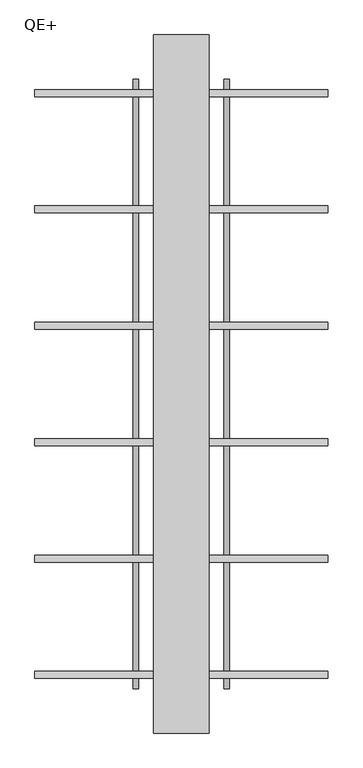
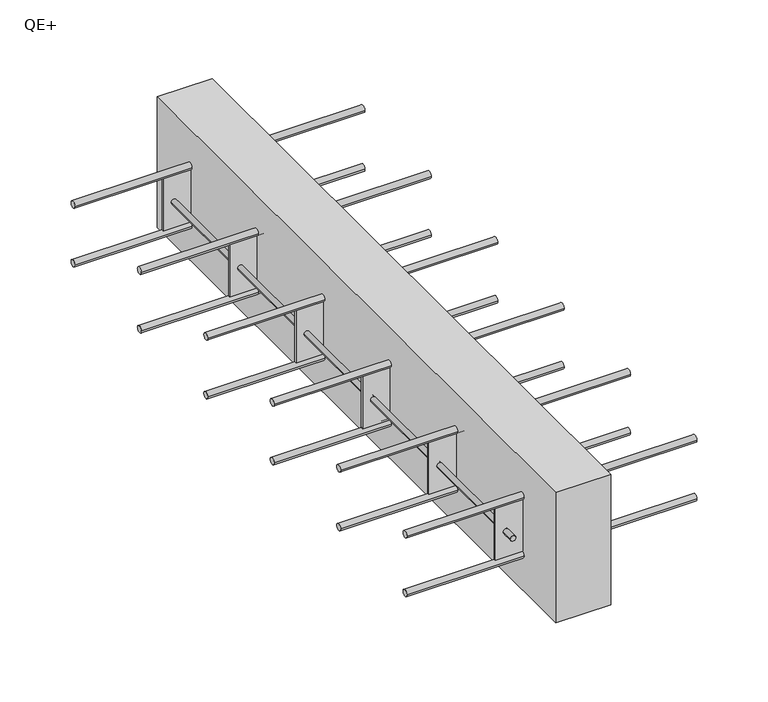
"""IFC4 building model written with IfcOpenShell, lengths in millimetres: fastener geometry, ACINOXplus_Typenreihe_Q : QE+."""

from ifc_helpers import new_model, si_unit, point, frame, frame_2d, origin, place, context, project, spatial, polyline, circle_curve, trimmed, segment, composite_curve, outline, extrude, source, transform, mapped, element, save


def qe_f8116bd4(model_context):
    return source(origin(), model_context, "Body", "SweptSolid", [
        extrude(outline(polyline([(40.0, 500.0), (40.0, -500.0), (-40.0, -500.0), (-40.0, 500.0), (40.0, 500.0)])), frame((0.0, 0.0, -200.0), z_axis=(0.0, 0.0, 1.0), x_axis=(1.0, 0.0, 0.0)), (0.0, 0.0, 1.0), 200.0),
        extrude(outline(polyline([(80.0, -248.5), (80.0, -251.5), (-80.0, -251.5), (-80.0, -248.5), (80.0, -248.5)])), frame((0.0, 0.0, -140.0), z_axis=(0.0, 0.0, 1.0), x_axis=(1.0, 0.0, 0.0)), (0.0, 0.0, 1.0), 80.0),
        extrude(outline(polyline([(80.0, -81.8333333), (80.0, -84.8333333), (-80.0, -84.8333333), (-80.0, -81.8333333), (80.0, -81.8333333)])), frame((0.0, 0.0, -140.0), z_axis=(0.0, 0.0, 1.0), x_axis=(1.0, 0.0, 0.0)), (0.0, 0.0, 1.0), 80.0),
        extrude(outline(polyline([(80.0, 84.8333333), (80.0, 81.8333333), (-80.0, 81.8333333), (-80.0, 84.8333333), (80.0, 84.8333333)])), frame((0.0, 0.0, -140.0), z_axis=(0.0, 0.0, 1.0), x_axis=(1.0, 0.0, 0.0)), (0.0, 0.0, 1.0), 80.0),
        extrude(outline(polyline([(80.0, 251.5), (80.0, 248.5), (-80.0, 248.5), (-80.0, 251.5), (80.0, 251.5)])), frame((0.0, 0.0, -140.0), z_axis=(0.0, 0.0, 1.0), x_axis=(1.0, 0.0, 0.0)), (0.0, 0.0, 1.0), 80.0),
        extrude(outline(polyline([(80.0, -415.1666667), (80.0, -418.1666667), (-80.0, -418.1666667), (-80.0, -415.1666667), (80.0, -415.1666667)])), frame((0.0, 0.0, -140.0), z_axis=(0.0, 0.0, 1.0), x_axis=(1.0, 0.0, 0.0)), (0.0, 0.0, 1.0), 80.0),
        extrude(outline(polyline([(80.0, 418.1666667), (80.0, 415.1666667), (-80.0, 415.1666667), (-80.0, 418.1666667), (80.0, 418.1666667)])), frame((0.0, 0.0, -140.0), z_axis=(0.0, 0.0, 1.0), x_axis=(1.0, 0.0, 0.0)), (0.0, 0.0, 1.0), 80.0),
        extrude(outline(composite_curve([segment(trimmed(circle_curve(frame_2d((-100.0, -65.0)), 4.0), [point((-100.0, -69.0))], [point((-100.0, -61.0))], False, "CARTESIAN"), True, "CONTINUOUS"), segment(trimmed(circle_curve(frame_2d((-100.0, -65.0)), 4.0), [point((-100.0, -61.0))], [point((-100.0, -69.0))], False, "CARTESIAN"), True, "CONTINUOUS")], self_intersect=False)), frame((0.0, -415.1666667, 0.0), z_axis=(0.0, 1.0, 0.0), x_axis=(0.0, 0.0, 1.0)), (0.0, 0.0, 1.0), 663.6666667),
        extrude(outline(composite_curve([segment(trimmed(circle_curve(frame_2d((-100.0, -65.0)), 4.0), [point((-100.0, -69.0))], [point((-100.0, -61.0))], False, "CARTESIAN"), True, "CONTINUOUS"), segment(trimmed(circle_curve(frame_2d((-100.0, -65.0)), 4.0), [point((-100.0, -61.0))], [point((-100.0, -69.0))], False, "CARTESIAN"), True, "CONTINUOUS")], self_intersect=False)), frame((0.0, 418.1666667, 0.0), z_axis=(0.0, 1.0, 0.0), x_axis=(0.0, 0.0, 1.0)), (0.0, 0.0, 1.0), 18.5),
        extrude(outline(composite_curve([segment(trimmed(circle_curve(frame_2d((-100.0, -65.0)), 4.0), [point((-100.0, -61.0))], [point((-100.0, -69.0))], False, "CARTESIAN"), True, "CONTINUOUS"), segment(trimmed(circle_curve(frame_2d((-100.0, -65.0)), 4.0), [point((-100.0, -69.0))], [point((-100.0, -61.0))], False, "CARTESIAN"), True, "CONTINUOUS")], self_intersect=False)), frame((0.0, -436.6666667, 0.0), z_axis=(0.0, 1.0, 0.0), x_axis=(0.0, 0.0, 1.0)), (0.0, 0.0, 1.0), 18.5),
        extrude(outline(composite_curve([segment(trimmed(circle_curve(frame_2d((-100.0, -65.0)), 4.0), [point((-100.0, -69.0))], [point((-100.0, -61.0))], False, "CARTESIAN"), True, "CONTINUOUS"), segment(trimmed(circle_curve(frame_2d((-100.0, -65.0)), 4.0), [point((-100.0, -61.0))], [point((-100.0, -69.0))], False, "CARTESIAN"), True, "CONTINUOUS")], self_intersect=False)), frame((0.0, 251.5, 0.0), z_axis=(0.0, 1.0, 0.0), x_axis=(0.0, 0.0, 1.0)), (0.0, 0.0, 1.0), 163.6666667),
        extrude(outline(composite_curve([segment(trimmed(circle_curve(frame_2d((-100.0, 65.0)), 4.0), [point((-100.0, 61.0))], [point((-100.0, 69.0))], False, "CARTESIAN"), True, "CONTINUOUS"), segment(trimmed(circle_curve(frame_2d((-100.0, 65.0)), 4.0), [point((-100.0, 69.0))], [point((-100.0, 61.0))], False, "CARTESIAN"), True, "CONTINUOUS")], self_intersect=False)), frame((0.0, -415.1666667, 0.0), z_axis=(0.0, 1.0, 0.0), x_axis=(0.0, 0.0, 1.0)), (0.0, 0.0, 1.0), 663.6666667),
        extrude(outline(composite_curve([segment(trimmed(circle_curve(frame_2d((-100.0, 65.0)), 4.0), [point((-100.0, 61.0))], [point((-100.0, 69.0))], False, "CARTESIAN"), True, "CONTINUOUS"), segment(trimmed(circle_curve(frame_2d((-100.0, 65.0)), 4.0), [point((-100.0, 69.0))], [point((-100.0, 61.0))], False, "CARTESIAN"), True, "CONTINUOUS")], self_intersect=False)), frame((0.0, 418.1666667, 0.0), z_axis=(0.0, 1.0, 0.0), x_axis=(0.0, 0.0, 1.0)), (0.0, 0.0, 1.0), 18.5),
        extrude(outline(composite_curve([segment(trimmed(circle_curve(frame_2d((-100.0, 65.0)), 4.0), [point((-100.0, 69.0))], [point((-100.0, 61.0))], False, "CARTESIAN"), True, "CONTINUOUS"), segment(trimmed(circle_curve(frame_2d((-100.0, 65.0)), 4.0), [point((-100.0, 61.0))], [point((-100.0, 69.0))], False, "CARTESIAN"), True, "CONTINUOUS")], self_intersect=False)), frame((0.0, -436.6666667, 0.0), z_axis=(0.0, 1.0, 0.0), x_axis=(0.0, 0.0, 1.0)), (0.0, 0.0, 1.0), 18.5),
        extrude(outline(composite_curve([segment(trimmed(circle_curve(frame_2d((-100.0, 65.0)), 4.0), [point((-100.0, 61.0))], [point((-100.0, 69.0))], False, "CARTESIAN"), True, "CONTINUOUS"), segment(trimmed(circle_curve(frame_2d((-100.0, 65.0)), 4.0), [point((-100.0, 69.0))], [point((-100.0, 61.0))], False, "CARTESIAN"), True, "CONTINUOUS")], self_intersect=False)), frame((0.0, 251.5, 0.0), z_axis=(0.0, 1.0, 0.0), x_axis=(0.0, 0.0, 1.0)), (0.0, 0.0, 1.0), 163.6666667),
        extrude(outline(composite_curve([segment(trimmed(circle_curve(frame_2d((83.3333333, -145.0)), 5.0), [point((78.3333333, -145.0))], [point((88.3333333, -145.0))], False, "CARTESIAN"), True, "CONTINUOUS"), segment(trimmed(circle_curve(frame_2d((83.3333333, -145.0)), 5.0), [point((88.3333333, -145.0))], [point((78.3333333, -145.0))], False, "CARTESIAN"), True, "CONTINUOUS")], self_intersect=False)), frame((-210.0, 0.0, 0.0), z_axis=(1.0, 0.0, 0.0), x_axis=(0.0, 1.0, 0.0)), (0.0, 0.0, 1.0), 420.0),
        extrude(outline(composite_curve([segment(trimmed(circle_curve(frame_2d((-83.3333333, -145.0)), 5.0), [point((-88.3333333, -145.0))], [point((-78.3333333, -145.0))], False, "CARTESIAN"), True, "CONTINUOUS"), segment(trimmed(circle_curve(frame_2d((-83.3333333, -145.0)), 5.0), [point((-78.3333333, -145.0))], [point((-88.3333333, -145.0))], False, "CARTESIAN"), True, "CONTINUOUS")], self_intersect=False)), frame((-210.0, 0.0, 0.0), z_axis=(1.0, 0.0, 0.0), x_axis=(0.0, 1.0, 0.0)), (0.0, 0.0, 1.0), 420.0),
        extrude(outline(composite_curve([segment(trimmed(circle_curve(frame_2d((250.0, -145.0)), 5.0), [point((245.0, -145.0))], [point((255.0, -145.0))], False, "CARTESIAN"), True, "CONTINUOUS"), segment(trimmed(circle_curve(frame_2d((250.0, -145.0)), 5.0), [point((255.0, -145.0))], [point((245.0, -145.0))], False, "CARTESIAN"), True, "CONTINUOUS")], self_intersect=False)), frame((-210.0, 0.0, 0.0), z_axis=(1.0, 0.0, 0.0), x_axis=(0.0, 1.0, 0.0)), (0.0, 0.0, 1.0), 420.0),
        extrude(outline(composite_curve([segment(trimmed(circle_curve(frame_2d((416.6666667, -145.0)), 5.0), [point((411.6666667, -145.0))], [point((421.6666667, -145.0))], False, "CARTESIAN"), True, "CONTINUOUS"), segment(trimmed(circle_curve(frame_2d((416.6666667, -145.0)), 5.0), [point((421.6666667, -145.0))], [point((411.6666667, -145.0))], False, "CARTESIAN"), True, "CONTINUOUS")], self_intersect=False)), frame((-210.0, 0.0, 0.0), z_axis=(1.0, 0.0, 0.0), x_axis=(0.0, 1.0, 0.0)), (0.0, 0.0, 1.0), 420.0),
        extrude(outline(composite_curve([segment(trimmed(circle_curve(frame_2d((-250.0, -145.0)), 5.0), [point((-255.0, -145.0))], [point((-245.0, -145.0))], False, "CARTESIAN"), True, "CONTINUOUS"), segment(trimmed(circle_curve(frame_2d((-250.0, -145.0)), 5.0), [point((-245.0, -145.0))], [point((-255.0, -145.0))], False, "CARTESIAN"), True, "CONTINUOUS")], self_intersect=False)), frame((-210.0, 0.0, 0.0), z_axis=(1.0, 0.0, 0.0), x_axis=(0.0, 1.0, 0.0)), (0.0, 0.0, 1.0), 420.0),
        extrude(outline(composite_curve([segment(trimmed(circle_curve(frame_2d((-416.6666667, -145.0)), 5.0), [point((-421.6666667, -145.0))], [point((-411.6666667, -145.0))], False, "CARTESIAN"), True, "CONTINUOUS"), segment(trimmed(circle_curve(frame_2d((-416.6666667, -145.0)), 5.0), [point((-411.6666667, -145.0))], [point((-421.6666667, -145.0))], False, "CARTESIAN"), True, "CONTINUOUS")], self_intersect=False)), frame((-210.0, 0.0, 0.0), z_axis=(1.0, 0.0, 0.0), x_axis=(0.0, 1.0, 0.0)), (0.0, 0.0, 1.0), 420.0),
        extrude(outline(composite_curve([segment(trimmed(circle_curve(frame_2d((83.3333333, -55.0)), 5.0), [point((78.3333333, -55.0))], [point((88.3333333, -55.0))], False, "CARTESIAN"), True, "CONTINUOUS"), segment(trimmed(circle_curve(frame_2d((83.3333333, -55.0)), 5.0), [point((88.3333333, -55.0))], [point((78.3333333, -55.0))], False, "CARTESIAN"), True, "CONTINUOUS")], self_intersect=False)), frame((-210.0, 0.0, 0.0), z_axis=(1.0, 0.0, 0.0), x_axis=(0.0, 1.0, 0.0)), (0.0, 0.0, 1.0), 420.0),
        extrude(outline(composite_curve([segment(trimmed(circle_curve(frame_2d((-83.3333333, -55.0)), 5.0), [point((-88.3333333, -55.0))], [point((-78.3333333, -55.0))], False, "CARTESIAN"), True, "CONTINUOUS"), segment(trimmed(circle_curve(frame_2d((-83.3333333, -55.0)), 5.0), [point((-78.3333333, -55.0))], [point((-88.3333333, -55.0))], False, "CARTESIAN"), True, "CONTINUOUS")], self_intersect=False)), frame((-210.0, 0.0, 0.0), z_axis=(1.0, 0.0, 0.0), x_axis=(0.0, 1.0, 0.0)), (0.0, 0.0, 1.0), 420.0),
        extrude(outline(composite_curve([segment(trimmed(circle_curve(frame_2d((250.0, -55.0)), 5.0), [point((245.0, -55.0))], [point((255.0, -55.0))], False, "CARTESIAN"), True, "CONTINUOUS"), segment(trimmed(circle_curve(frame_2d((250.0, -55.0)), 5.0), [point((255.0, -55.0))], [point((245.0, -55.0))], False, "CARTESIAN"), True, "CONTINUOUS")], self_intersect=False)), frame((-210.0, 0.0, 0.0), z_axis=(1.0, 0.0, 0.0), x_axis=(0.0, 1.0, 0.0)), (0.0, 0.0, 1.0), 420.0),
        extrude(outline(composite_curve([segment(trimmed(circle_curve(frame_2d((416.6666667, -55.0)), 5.0), [point((411.6666667, -55.0))], [point((421.6666667, -55.0))], False, "CARTESIAN"), True, "CONTINUOUS"), segment(trimmed(circle_curve(frame_2d((416.6666667, -55.0)), 5.0), [point((421.6666667, -55.0))], [point((411.6666667, -55.0))], False, "CARTESIAN"), True, "CONTINUOUS")], self_intersect=False)), frame((-210.0, 0.0, 0.0), z_axis=(1.0, 0.0, 0.0), x_axis=(0.0, 1.0, 0.0)), (0.0, 0.0, 1.0), 420.0),
        extrude(outline(composite_curve([segment(trimmed(circle_curve(frame_2d((-250.0, -55.0)), 5.0), [point((-255.0, -55.0))], [point((-245.0, -55.0))], False, "CARTESIAN"), True, "CONTINUOUS"), segment(trimmed(circle_curve(frame_2d((-250.0, -55.0)), 5.0), [point((-245.0, -55.0))], [point((-255.0, -55.0))], False, "CARTESIAN"), True, "CONTINUOUS")], self_intersect=False)), frame((-210.0, 0.0, 0.0), z_axis=(1.0, 0.0, 0.0), x_axis=(0.0, 1.0, 0.0)), (0.0, 0.0, 1.0), 420.0),
        extrude(outline(composite_curve([segment(trimmed(circle_curve(frame_2d((-416.6666667, -55.0)), 5.0), [point((-421.6666667, -55.0))], [point((-411.6666667, -55.0))], False, "CARTESIAN"), True, "CONTINUOUS"), segment(trimmed(circle_curve(frame_2d((-416.6666667, -55.0)), 5.0), [point((-411.6666667, -55.0))], [point((-421.6666667, -55.0))], False, "CARTESIAN"), True, "CONTINUOUS")], self_intersect=False)), frame((-210.0, 0.0, 0.0), z_axis=(1.0, 0.0, 0.0), x_axis=(0.0, 1.0, 0.0)), (0.0, 0.0, 1.0), 420.0),
    ])


if __name__ == "__main__":
    model = new_model("IFC4")
    model_context = context("Model", 3, world=origin())
    ifc_project = project(units=[si_unit("LENGTHUNIT", "METRE", prefix="MILLI")], contexts=[model_context])
    site = spatial("IfcSite", under=ifc_project)
    building = spatial("IfcBuilding", under=site)
    placement = place(None, origin())
    qe_shape = qe_f8116bd4(model_context)
    element("IfcFastener", 1, ObjectType="ACINOXplus_Typenreihe_Q : QE+", at=placement, inside=building, context=model_context, shape_type="MappedRepresentation", body=[
        mapped(qe_shape, transform((0.0, 0.0, 0.0), x_axis=(1.0, 0.0, 0.0), y_axis=(0.0, 1.0, 0.0), z_axis=(0.0, 0.0, 1.0))),
    ])
    save(model, "model.ifc")
